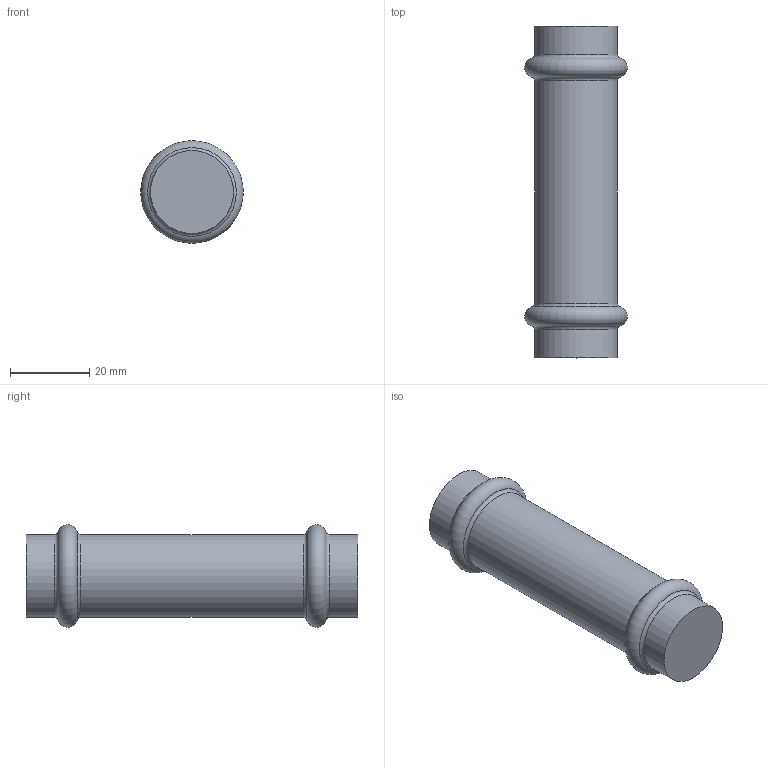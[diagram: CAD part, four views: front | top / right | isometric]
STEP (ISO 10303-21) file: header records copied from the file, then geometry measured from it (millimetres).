
FILE_DESCRIPTION(('STEP AP203'), '1');
FILE_NAME('VTi.904.I.001818', '', ('UNSPECIFIED'), ('UNSPECIFIED'), 'C3D Converter', 'C3D Toolkit', '');
FILE_SCHEMA(('CONFIG_CONTROL_DESIGN'));
Length unit declared in the file: millimetre
Bounding box: 25.99 x 84 x 25.99 mm (x, y, z)
Volume: 30555.7 mm3; surface area: 6691.2 mm2
Topology: 1 solids, 1 shells, 11 faces, 19 edges, 10 vertices
Faces by surface type: torus 6, cylinder 3, plane 2
Full cylindrical faces by diameter (mm): 21 x3
Entity records: 254 total; most frequent: DIRECTION 44, CARTESIAN_POINT 32, AXIS2_PLACEMENT_3D 22, EDGE_LOOP 20, ORIENTED_EDGE 20, FACE_OUTER_BOUND 18, ADVANCED_FACE 11, EDGE_CURVE 10
